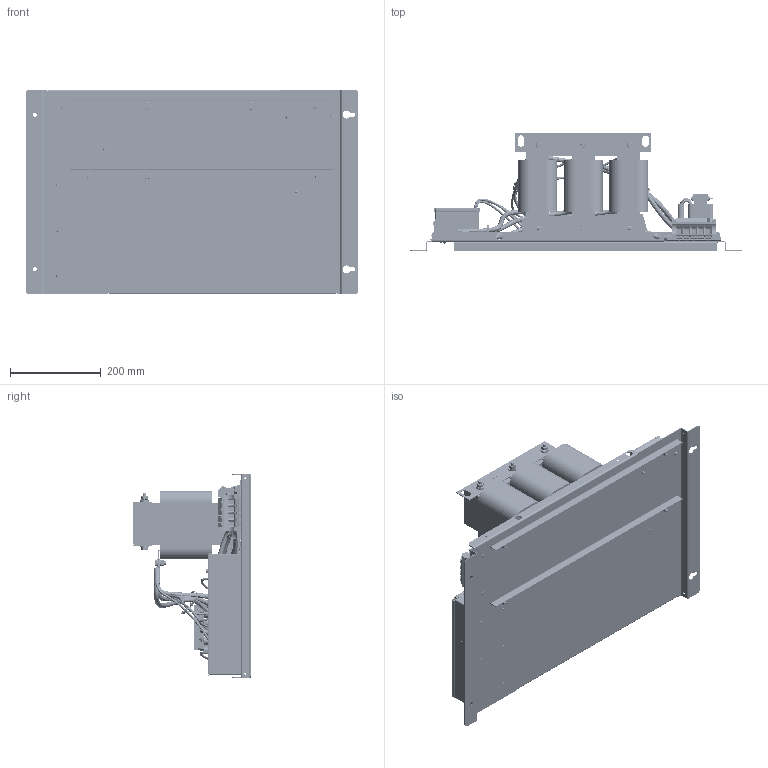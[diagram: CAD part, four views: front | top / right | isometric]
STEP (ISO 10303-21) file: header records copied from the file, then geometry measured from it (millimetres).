
FILE_DESCRIPTION((''),'2;1');
FILE_NAME('MERGE_NEW_2','2021-12-09T',('ee7446'),(''),'CREO PARAMETRIC BY PTC INC, 2018220','CREO PARAMETRIC BY PTC INC, 2018220','');
FILE_SCHEMA(('AUTOMOTIVE_DESIGN { 1 0 10303 214 1 1 1 1 }'));
Products named in the file (1): MERGE_NEW_2
Bounding box: 730 x 259 x 450 mm (x, y, z)
Volume: 12191438 mm3; surface area: 1774142 mm2
Topology: 2 solids, 46 shells, 7971 faces, 21665 edges, 13915 vertices
Faces by surface type: plane 4553, cylinder 2414, cone 695, bspline 189, torus 104, sphere 16
Entity records: 280288 total; most frequent: CARTESIAN_POINT 75887, ORIENTED_EDGE 43238, DIRECTION 41605, EDGE_CURVE 21619, VECTOR 13949, LINE 13949, VERTEX_POINT 13915, AXIS2_PLACEMENT_3D 13828
